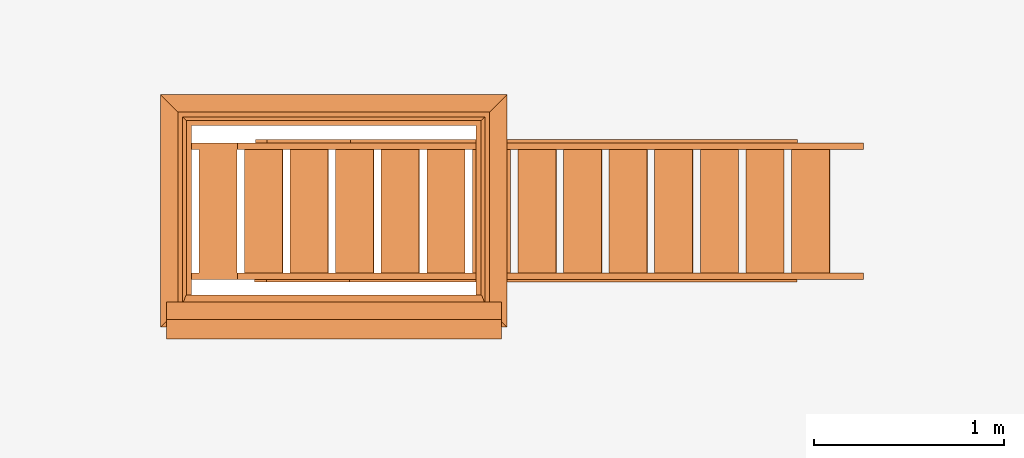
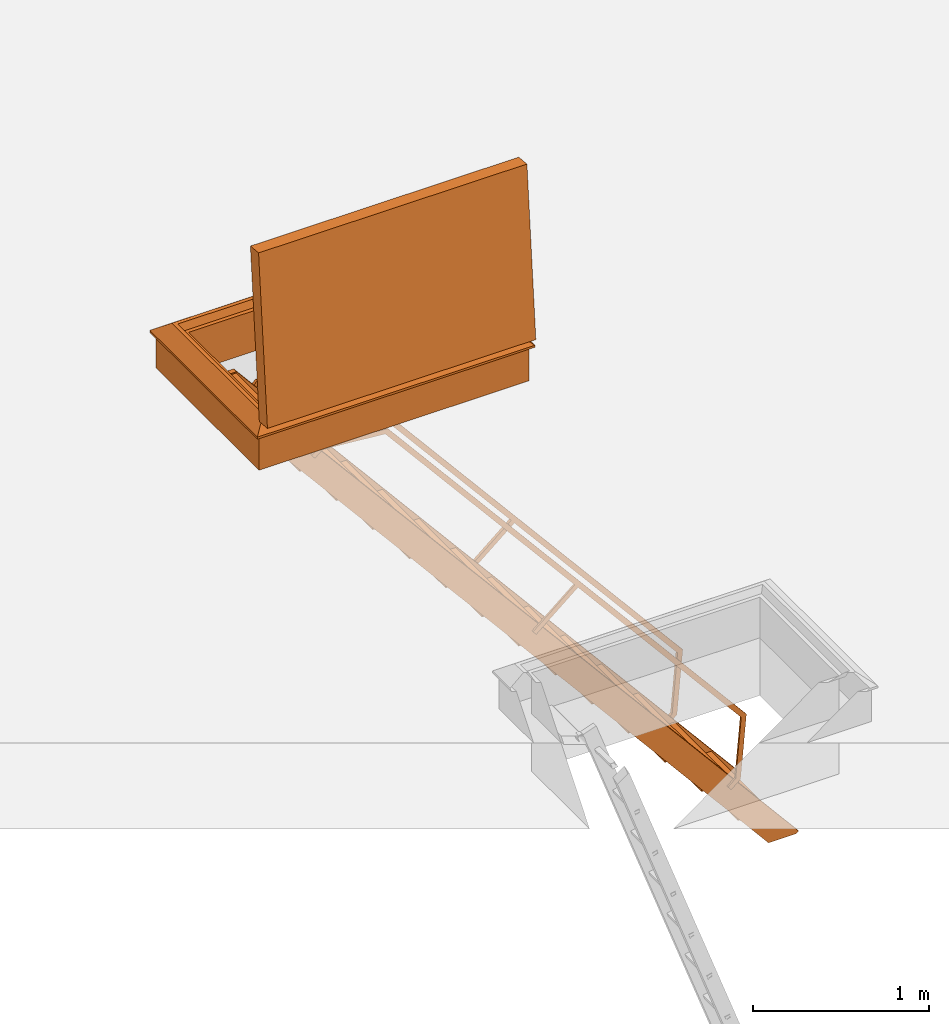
# One storey, part 21 of 28: 1 proxy.
"""IFC2X3 building model written with IfcOpenShell, lengths in millimetres."""

from ifc_helpers import new_model, entity, si_unit, converted_unit, derived_unit, direction, frame, origin, place, context, subcontext, project, spatial, faceted_brep, source, transform, mapped, material, type_object, type_shapes, element, save


model = new_model("IFC2X3")

# Units and contexts
model_context = context("Model", 3, precision=0.01, world=origin(), true_north=direction((6.12303176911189e-17, 1.0)))
body_context = subcontext(model_context, "Body", "Model", "MODEL_VIEW")
ifc_project = project(units=[si_unit("LENGTHUNIT", "METRE", prefix="MILLI"), si_unit("AREAUNIT", "SQUARE_METRE"), si_unit("VOLUMEUNIT", "CUBIC_METRE"), converted_unit("PLANEANGLEUNIT", "DEGREE", entity("IfcRatioMeasure", 0.0174532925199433), si_unit("PLANEANGLEUNIT", "RADIAN"), dimensions=[0, 0, 0, 0, 0, 0, 0]), si_unit("MASSUNIT", "GRAM", prefix="KILO"), derived_unit("MASSDENSITYUNIT", [(si_unit("MASSUNIT", "GRAM", prefix="KILO"), 1), (si_unit("LENGTHUNIT", "METRE"), -3)]), si_unit("TIMEUNIT", "SECOND"), si_unit("FREQUENCYUNIT", "HERTZ"), si_unit("THERMODYNAMICTEMPERATUREUNIT", "DEGREE_CELSIUS"), derived_unit("THERMALTRANSMITTANCEUNIT", [(si_unit("MASSUNIT", "GRAM", prefix="KILO"), 1), (si_unit("THERMODYNAMICTEMPERATUREUNIT", "KELVIN"), -1), (si_unit("TIMEUNIT", "SECOND"), -3)]), derived_unit("VOLUMETRICFLOWRATEUNIT", [(si_unit("LENGTHUNIT", "METRE"), 3), (si_unit("TIMEUNIT", "SECOND"), -1)]), si_unit("ELECTRICCURRENTUNIT", "AMPERE"), si_unit("ELECTRICVOLTAGEUNIT", "VOLT"), si_unit("POWERUNIT", "WATT"), si_unit("FORCEUNIT", "NEWTON", prefix="KILO"), si_unit("ILLUMINANCEUNIT", "LUX"), si_unit("LUMINOUSFLUXUNIT", "LUMEN"), si_unit("LUMINOUSINTENSITYUNIT", "CANDELA"), derived_unit("USERDEFINED", [(si_unit("MASSUNIT", "GRAM", prefix="KILO"), -1), (si_unit("LENGTHUNIT", "METRE"), -2), (si_unit("TIMEUNIT", "SECOND"), 3), (si_unit("LUMINOUSFLUXUNIT", "LUMEN"), 1)]), derived_unit("LINEARVELOCITYUNIT", [(si_unit("LENGTHUNIT", "METRE"), 1), (si_unit("TIMEUNIT", "SECOND"), -1)]), si_unit("PRESSUREUNIT", "PASCAL"), derived_unit("USERDEFINED", [(si_unit("LENGTHUNIT", "METRE"), -2), (si_unit("MASSUNIT", "GRAM", prefix="KILO"), 1), (si_unit("TIMEUNIT", "SECOND"), -2)])], contexts=[model_context])

# Site, building, storey
site_placement = place(None, origin())
site = spatial("IfcSite", under=ifc_project, at=site_placement, Name="Default", CompositionType="ELEMENT")
building_placement = place(site_placement, origin())
building = spatial("IfcBuilding", under=site, at=building_placement, CompositionType="ELEMENT")
storey_placement = place(building_placement, frame((0.0, 0.0, 4000.0)))
storey = spatial("IfcBuildingStorey", under=building, at=storey_placement, Name="Level 2", CompositionType="ELEMENT", Elevation=4000.0)

# Proxy
ifc_material = material(Name="Analytical Floor Surface")
building_element_proxy_type = type_object("IfcBuildingElementProxyType", Name="1500 x 900 Solid Stair", PredefinedType="NOTDEFINED", material=ifc_material)
shared_shape = source(origin(), body_context, "Body", "Brep", [
    faceted_brep([(1728.62735243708, 556.832879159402, -3725.90379726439), (1730.37046729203, 556.832879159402, -3745.82769122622), (1528.62735243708, 556.832879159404, -3745.82769122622), (1528.62735243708, 556.832879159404, -3725.90379726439), (1728.62735243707, -93.1671208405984, -3725.90379726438), (1528.62735243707, -93.1671208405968, -3725.90379726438), (1528.62735243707, -93.1671208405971, -3745.82769122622), (1730.37046729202, -93.1671208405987, -3745.82769122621)], [[[0, 1, 2, 3]], [[4, 5, 6, 7]], [[1, 0, 4, 7]], [[2, 1, 7, 6]], [[3, 2, 6, 5]], [[0, 3, 5, 4]]]),
    faceted_brep([(1488.62735243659, 556.832879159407, -3439.88293504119), (1490.37046729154, 556.832879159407, -3459.80682900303), (1288.62735243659, 556.832879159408, -3459.80682900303), (1288.62735243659, 556.832879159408, -3439.8829350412), (1488.62735243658, -93.1671208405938, -3439.88293504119), (1288.62735243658, -93.1671208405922, -3439.88293504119), (1288.62735243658, -93.1671208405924, -3459.80682900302), (1490.37046729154, -93.167120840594, -3459.80682900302)], [[[0, 1, 2, 3]], [[4, 5, 6, 7]], [[1, 0, 4, 7]], [[2, 1, 7, 6]], [[3, 2, 6, 5]], [[0, 3, 5, 4]]]),
    faceted_brep([(1248.627352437, 556.832879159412, -3153.86207281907), (1250.37046729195, 556.832879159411, -3173.78596678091), (1048.627352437, 556.832879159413, -3173.78596678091), (1048.627352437, 556.832879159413, -3153.86207281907), (1248.62735243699, -93.1671208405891, -3153.86207281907), (1048.62735243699, -93.1671208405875, -3153.86207281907), (1048.62735243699, -93.1671208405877, -3173.7859667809), (1250.37046729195, -93.1671208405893, -3173.7859667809)], [[[0, 1, 2, 3]], [[4, 5, 6, 7]], [[1, 0, 4, 7]], [[2, 1, 7, 6]], [[3, 2, 6, 5]], [[0, 3, 5, 4]]]),
    faceted_brep([(1008.62735243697, 556.832879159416, -2867.84121059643), (1010.37046729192, 556.832879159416, -2887.76510455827), (808.62735243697, 556.832879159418, -2887.76510455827), (808.62735243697, 556.832879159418, -2867.84121059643), (1008.62735243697, -93.1671208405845, -2867.84121059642), (808.627352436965, -93.1671208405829, -2867.84121059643), (808.627352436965, -93.1671208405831, -2887.76510455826), (1010.37046729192, -93.1671208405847, -2887.76510455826)], [[[0, 1, 2, 3]], [[4, 5, 6, 7]], [[1, 0, 4, 7]], [[2, 1, 7, 6]], [[3, 2, 6, 5]], [[0, 3, 5, 4]]]),
    faceted_brep([(768.627352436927, 556.832879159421, -2581.82034837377), (770.37046729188, 556.83287915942, -2601.7442423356), (568.627352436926, 556.832879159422, -2601.7442423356), (568.627352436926, 556.832879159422, -2581.82034837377), (768.627352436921, -93.1671208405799, -2581.82034837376), (568.627352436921, -93.1671208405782, -2581.82034837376), (568.627352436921, -93.1671208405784, -2601.7442423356), (770.370467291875, -93.1671208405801, -2601.7442423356)], [[[0, 1, 2, 3]], [[4, 5, 6, 7]], [[1, 0, 4, 7]], [[2, 1, 7, 6]], [[3, 2, 6, 5]], [[0, 3, 5, 4]]]),
    faceted_brep([(528.627352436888, 556.832879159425, -2295.79948615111), (530.370467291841, 556.832879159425, -2315.72338011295), (328.627352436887, 556.832879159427, -2315.72338011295), (328.627352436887, 556.832879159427, -2295.79948615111), (528.627352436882, -93.1671208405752, -2295.7994861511), (328.627352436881, -93.1671208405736, -2295.79948615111), (328.627352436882, -93.1671208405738, -2315.72338011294), (530.370467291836, -93.1671208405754, -2315.72338011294)], [[[0, 1, 2, 3]], [[4, 5, 6, 7]], [[1, 0, 4, 7]], [[2, 1, 7, 6]], [[3, 2, 6, 5]], [[0, 3, 5, 4]]]),
    faceted_brep([(288.627352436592, 556.83287915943, -2009.77862392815), (290.370467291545, 556.83287915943, -2029.70251788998), (88.6273524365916, 556.832879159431, -2029.70251788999), (88.6273524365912, 556.832879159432, -2009.77862392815), (288.627352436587, -93.1671208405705, -2009.77862392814), (88.6273524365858, -93.1671208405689, -2009.77862392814), (88.6273524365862, -93.1671208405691, -2029.70251788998), (290.37046729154, -93.1671208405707, -2029.70251788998)], [[[0, 1, 2, 3]], [[4, 5, 6, 7]], [[1, 0, 4, 7]], [[2, 1, 7, 6]], [[3, 2, 6, 5]], [[0, 3, 5, 4]]]),
    faceted_brep([(48.6273524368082, 556.832879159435, -1723.7577617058), (50.3704672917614, 556.832879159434, -1743.68165566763), (-151.372647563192, 556.832879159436, -1743.68165566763), (-151.372647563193, 556.832879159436, -1723.7577617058), (48.6273524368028, -93.1671208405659, -1723.75776170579), (-151.372647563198, -93.1671208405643, -1723.75776170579), (-151.372647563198, -93.1671208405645, -1743.68165566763), (50.370467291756, -93.1671208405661, -1743.68165566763)], [[[0, 1, 2, 3]], [[4, 5, 6, 7]], [[1, 0, 4, 7]], [[2, 1, 7, 6]], [[3, 2, 6, 5]], [[0, 3, 5, 4]]]),
    faceted_brep([(-1391.37264756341, 556.832879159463, -7.63258836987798), (-1389.62953270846, 556.832879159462, -27.556482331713), (-1591.37264756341, 556.832879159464, -27.5564823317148), (-1591.37264756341, 556.832879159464, -7.63258836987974), (-1391.37264756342, -93.167120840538, -7.63258836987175), (-1591.37264756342, -93.1671208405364, -7.63258836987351), (-1591.37264756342, -93.1671208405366, -27.5564823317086), (-1389.62953270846, -93.1671208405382, -27.5564823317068)], [[[0, 1, 2, 3]], [[4, 5, 6, 7]], [[1, 0, 4, 7]], [[2, 1, 7, 6]], [[3, 2, 6, 5]], [[0, 3, 5, 4]]]),
    faceted_brep([(-191.372647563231, 556.832879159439, -1437.73689948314), (-189.629532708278, 556.832879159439, -1457.66079344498), (-391.372647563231, 556.832879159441, -1457.66079344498), (-391.372647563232, 556.832879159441, -1437.73689948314), (-191.372647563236, -93.1671208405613, -1437.73689948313), (-391.372647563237, -93.1671208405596, -1437.73689948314), (-391.372647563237, -93.1671208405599, -1457.66079344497), (-189.629532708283, -93.1671208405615, -1457.66079344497)], [[[0, 1, 2, 3]], [[4, 5, 6, 7]], [[1, 0, 4, 7]], [[2, 1, 7, 6]], [[3, 2, 6, 5]], [[0, 3, 5, 4]]]),
    faceted_brep([(-431.37264756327, 556.832879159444, -1151.71603726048), (-429.629532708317, 556.832879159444, -1171.63993122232), (-631.372647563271, 556.832879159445, -1171.63993122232), (-631.372647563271, 556.832879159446, -1151.71603726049), (-431.372647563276, -93.1671208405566, -1151.71603726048), (-631.372647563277, -93.167120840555, -1151.71603726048), (-631.372647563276, -93.1671208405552, -1171.63993122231), (-429.629532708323, -93.1671208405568, -1171.63993122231)], [[[0, 1, 2, 3]], [[4, 5, 6, 7]], [[1, 0, 4, 7]], [[2, 1, 7, 6]], [[3, 2, 6, 5]], [[0, 3, 5, 4]]]),
    faceted_brep([(-671.37264756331, 556.832879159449, -865.695175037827), (-669.629532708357, 556.832879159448, -885.619068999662), (-871.372647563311, 556.83287915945, -885.619068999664), (-871.372647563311, 556.83287915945, -865.695175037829), (-671.372647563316, -93.167120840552, -865.69517503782), (-871.372647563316, -93.1671208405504, -865.695175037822), (-871.372647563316, -93.1671208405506, -885.619068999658), (-669.629532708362, -93.1671208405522, -885.619068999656)], [[[0, 1, 2, 3]], [[4, 5, 6, 7]], [[1, 0, 4, 7]], [[2, 1, 7, 6]], [[3, 2, 6, 5]], [[0, 3, 5, 4]]]),
    faceted_brep([(-911.372647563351, 556.832879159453, -579.674312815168), (-909.629532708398, 556.832879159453, -599.598206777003), (-1111.37264756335, 556.832879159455, -599.598206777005), (-1111.37264756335, 556.832879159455, -579.67431281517), (-911.372647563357, -93.1671208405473, -579.674312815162), (-1111.37264756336, -93.1671208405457, -579.674312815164), (-1111.37264756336, -93.1671208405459, -599.598206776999), (-909.629532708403, -93.1671208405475, -599.598206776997)], [[[0, 1, 2, 3]], [[4, 5, 6, 7]], [[1, 0, 4, 7]], [[2, 1, 7, 6]], [[3, 2, 6, 5]], [[0, 3, 5, 4]]]),
    faceted_brep([(-1151.3726475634, 556.832879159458, -293.653450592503), (-1149.62953270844, 556.832879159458, -313.577344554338), (-1351.3726475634, 556.832879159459, -313.57734455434), (-1351.3726475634, 556.83287915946, -293.653450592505), (-1151.3726475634, -93.1671208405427, -293.653450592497), (-1351.3726475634, -93.167120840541, -293.653450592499), (-1351.3726475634, -93.1671208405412, -313.577344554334), (-1149.62953270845, -93.1671208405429, -313.577344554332)], [[[0, 1, 2, 3]], [[4, 5, 6, 7]], [[1, 0, 4, 7]], [[2, 1, 7, 6]], [[3, 2, 6, 5]], [[0, 3, 5, 4]]]),
    faceted_brep([(-1236.6086774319, -127.167120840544, -141.069289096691), (-798.283010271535, -127.167120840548, -179.417815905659), (513.003713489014, -127.167120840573, -1742.14847986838), (1557.53357922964, -127.167120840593, -2986.97069993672), (1519.18505242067, -127.167120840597, -3425.29636709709), (1457.90149697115, -127.167120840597, -3476.71937587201), (1436.6895058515, -127.167120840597, -3451.43990924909), (1487.50196337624, -127.167120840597, -3408.80319488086), (1523.46781820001, -127.167120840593, -2997.7115931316), (487.724246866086, -127.167120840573, -1763.36047098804), (451.166976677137, -127.167120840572, -1719.79321290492), (176.825790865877, -127.167120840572, -1949.99280073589), (155.613799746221, -127.167120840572, -1924.71333411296), (429.954985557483, -127.167120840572, -1694.51374628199), (-814.776182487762, -127.167120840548, -211.100904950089), (-1225.86778423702, -127.167120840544, -175.135050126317), (-1276.68024176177, -127.167120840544, -217.771764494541), (-1297.89223288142, -127.167120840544, -192.492297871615), (-1236.6086774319, -139.527680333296, -141.069289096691), (-1297.89223288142, -139.527680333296, -192.492297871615), (-1276.68024176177, -139.527680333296, -217.771764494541), (-1225.86778423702, -139.527680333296, -175.135050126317), (-814.776182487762, -139.5276803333, -211.100904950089), (429.954985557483, -139.527680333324, -1694.51374628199), (155.613799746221, -139.527680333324, -1924.71333411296), (176.825790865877, -139.527680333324, -1949.99280073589), (451.166976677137, -139.527680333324, -1719.79321290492), (487.724246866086, -139.527680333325, -1763.36047098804), (1523.46781820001, -139.527680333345, -2997.7115931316), (1487.50196337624, -139.527680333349, -3408.80319488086), (1436.6895058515, -139.527680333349, -3451.43990924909), (1457.90149697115, -139.527680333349, -3476.71937587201), (1519.18505242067, -139.527680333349, -3425.29636709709), (1557.53357922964, -139.527680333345, -2986.97069993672), (513.003713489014, -139.527680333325, -1742.14847986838), (-798.283010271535, -139.5276803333, -179.417815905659)], [[[0, 1, 2, 3, 4, 5, 6, 7, 8, 9, 10, 11, 12, 13, 14, 15, 16, 17]], [[18, 19, 20, 21, 22, 23, 24, 25, 26, 27, 28, 29, 30, 31, 32, 33, 34, 35]], [[1, 0, 18, 35]], [[2, 1, 35, 34]], [[3, 2, 34, 33]], [[4, 3, 33, 32]], [[5, 4, 32, 31]], [[6, 5, 31, 30]], [[7, 6, 30, 29]], [[8, 7, 29, 28]], [[9, 8, 28, 27]], [[14, 13, 23, 22]], [[15, 14, 22, 21]], [[16, 15, 21, 20]], [[17, 16, 20, 19]], [[0, 17, 19, 18]], [[10, 9, 27, 26]], [[11, 10, 26, 25]], [[12, 11, 25, 24]], [[13, 12, 24, 23]]]),
    faceted_brep([(-1232.7784552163, 610.399299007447, -137.855351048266), (-794.452788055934, 610.399299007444, -176.203877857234), (516.833935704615, 610.399299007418, -1738.93454181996), (1561.36380144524, 610.399299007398, -2983.75676188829), (1523.01527463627, 610.399299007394, -3422.08242904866), (1461.73171918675, 610.399299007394, -3473.50543782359), (1440.5197280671, 610.399299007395, -3448.22597120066), (1491.33218559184, 610.399299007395, -3405.58925683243), (1527.29804041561, 610.399299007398, -2994.49765508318), (491.554469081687, 610.399299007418, -1760.14653293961), (454.997198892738, 610.399299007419, -1716.5792748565), (180.656013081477, 610.399299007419, -1946.77886268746), (159.444021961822, 610.399299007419, -1921.49939606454), (433.785207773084, 610.399299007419, -1691.29980823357), (-810.945960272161, 610.399299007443, -207.886966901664), (-1222.03756202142, 610.399299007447, -171.921112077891), (-1272.85001954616, 610.399299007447, -214.557826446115), (-1294.06201066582, 610.399299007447, -189.278359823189), (-1232.7784552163, 590.832879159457, -137.855351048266), (-1294.06201066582, 590.832879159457, -189.278359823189), (-1272.85001954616, 590.832879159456, -214.557826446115), (-1222.03756202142, 590.832879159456, -171.921112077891), (-810.945960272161, 590.832879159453, -207.886966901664), (433.785207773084, 590.832879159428, -1691.29980823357), (159.444021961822, 590.832879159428, -1921.49939606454), (180.656013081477, 590.832879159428, -1946.77886268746), (454.997198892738, 590.832879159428, -1716.5792748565), (491.554469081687, 590.832879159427, -1760.14653293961), (1527.29804041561, 590.832879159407, -2994.49765508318), (1491.33218559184, 590.832879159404, -3405.58925683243), (1440.5197280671, 590.832879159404, -3448.22597120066), (1461.73171918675, 590.832879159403, -3473.50543782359), (1523.01527463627, 590.832879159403, -3422.08242904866), (1561.36380144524, 590.832879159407, -2983.75676188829), (516.833935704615, 590.832879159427, -1738.93454181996), (-794.452788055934, 590.832879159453, -176.203877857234)], [[[0, 1, 2, 3, 4, 5, 6, 7, 8, 9, 10, 11, 12, 13, 14, 15, 16, 17]], [[18, 19, 20, 21, 22, 23, 24, 25, 26, 27, 28, 29, 30, 31, 32, 33, 34, 35]], [[1, 0, 18, 35]], [[2, 1, 35, 34]], [[3, 2, 34, 33]], [[4, 3, 33, 32]], [[5, 4, 32, 31]], [[6, 5, 31, 30]], [[7, 6, 30, 29]], [[8, 7, 29, 28]], [[9, 8, 28, 27]], [[14, 13, 23, 22]], [[15, 14, 22, 21]], [[16, 15, 21, 20]], [[17, 16, 20, 19]], [[0, 17, 19, 18]], [[10, 9, 27, 26]], [[11, 10, 26, 25]], [[12, 11, 25, 24]], [[13, 12, 24, 23]]]),
    faceted_brep([(-1597.76708429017, 590.832879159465, -0.0119954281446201), (-1568.34624050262, 590.832879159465, -35.0743917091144), (-1631.26976233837, 590.832879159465, -35.0518623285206), (-1631.26976233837, 590.832879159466, 0.0), (-1597.76708429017, 556.832879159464, -0.0119954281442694), (-1568.34624050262, 556.832879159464, -35.074391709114), (-1631.26976233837, 556.832879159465, 0.0), (-1631.26976233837, 556.832879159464, -35.0518623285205)], [[[0, 1, 2, 3]], [[1, 0, 4, 5]], [[0, 3, 6, 4]], [[5, 4, 6, 7]], [[2, 1, 5, 7]], [[3, 2, 7, 6]]]),
    faceted_brep([(-1597.76708429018, -127.167120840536, -0.0119954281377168), (-1631.26976233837, -127.167120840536, 0.0), (-1631.26976233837, -127.167120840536, -35.0518623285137), (-1568.34624050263, -127.167120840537, -35.0743917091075), (-1597.76708429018, -93.1671208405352, -0.01199542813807), (-1568.34624050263, -93.1671208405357, -35.0743917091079), (-1631.26976233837, -93.1671208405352, -35.0518623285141), (-1631.26976233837, -93.167120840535, 0.0)], [[[0, 1, 2, 3]], [[4, 5, 6, 7]], [[2, 1, 7, 6]], [[3, 2, 6, 5]], [[1, 0, 4, 7]], [[0, 3, 5, 4]]]),
    faceted_brep([(1907.36795130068, -127.167120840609, -3928.3534543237), (1907.36795130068, -93.1671208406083, -3928.3534543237), (-1388.90191799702, -93.1671208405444, -0.011995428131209), (-1388.90191799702, -127.167120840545, -0.0119954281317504), (1891.29437525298, -93.1671208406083, -3941.84078605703), (1709.82000009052, -93.1671208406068, -3941.84078605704), (-1597.76708429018, -93.1671208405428, -0.0119954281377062), (-1597.80052366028, -127.167120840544, 0.0278560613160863), (1709.82000009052, -127.167120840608, -3941.84078605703), (1891.29437525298, -127.167120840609, -3941.84078605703), (-1597.80052366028, -127.167120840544, -0.0119954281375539), (-1597.76708429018, -127.167120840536, -0.0119954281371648), (-1597.80052366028, -93.1671208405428, 0.0278560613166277)], [[[0, 1, 2, 3]], [[2, 1, 4, 5, 6]], [[0, 3, 7, 8, 9]], [[1, 0, 9, 4]], [[8, 5, 4, 9]], [[3, 2, 6, 10]], [[11, 12, 5, 8]]]),
    faceted_brep([(-1597.76708429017, 556.832879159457, -0.011995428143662), (-1597.80052366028, 590.832879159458, 0.027856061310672), (1709.82000009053, 590.832879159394, -3941.84078605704), (1709.82000009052, 556.832879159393, -3941.84078605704), (-1388.90191799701, 590.832879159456, -0.0119954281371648), (1907.36795130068, 590.832879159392, -3928.35345432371), (1891.29437525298, 590.832879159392, -3941.84078605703), (-1597.80052366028, 590.832879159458, -0.0119954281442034), (1907.36795130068, 556.832879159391, -3928.35345432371), (-1388.90191799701, 556.832879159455, -0.0119954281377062), (-1597.80052366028, 556.832879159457, 0.0278560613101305), (1891.29437525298, 556.832879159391, -3941.84078605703), (-1597.76708429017, 590.832879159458, -0.0119954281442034)], [[[0, 1, 2, 3]], [[4, 5, 6, 2, 7]], [[8, 9, 10, 3, 11]], [[9, 4, 12, 0]], [[3, 2, 6, 11]], [[5, 8, 11, 6]], [[8, 5, 4, 9]]]),
    faceted_brep([(-1631.26976233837, -350.124781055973, 344.195196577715), (-1631.26976233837, -348.800451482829, 344.908169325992), (-1631.26976233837, -347.339899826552, 345.26729022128), (-1631.26976233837, -345.835948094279, 345.249736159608), (-1631.26976233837, -344.384176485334, 344.856622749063), (-1631.26976233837, -343.076849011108, 344.112933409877), (-1631.26976233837, -341.997049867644, 343.065931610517), (-1631.26976233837, -341.213403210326, 341.782157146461), (-1631.26976233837, -340.775711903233, 340.343197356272), (-1631.26976233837, -340.711792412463, 338.840502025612), (-1631.26976233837, -340.696254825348, 336.62771705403), (-1631.26976233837, -340.198130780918, 334.471671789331), (-1631.26976233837, -339.24143902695, 332.476327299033), (-1631.26976233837, -337.872309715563, 330.737895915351), (-1631.26976233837, -336.156760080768, 329.340202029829), (-1631.26976233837, -334.177511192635, 328.350640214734), (-1631.26976233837, -301.289293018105, 316.210889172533), (-1631.26976233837, -348.141421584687, 278.729186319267), (-1631.26976233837, -358.074072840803, 291.145000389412), (-1631.26976233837, -359.148733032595, 293.636450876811), (-1631.26976233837, -359.233835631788, 296.34845707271), (-1631.26976233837, -352.042121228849, 341.908549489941), (-1631.26976233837, -351.228723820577, 343.173683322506), (-1599.74602094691, -334.177511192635, 328.350640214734), (-1599.74602094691, -301.289293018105, 316.210889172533), (-1599.74602094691, -348.141421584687, 278.729186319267), (-1599.74602094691, -358.074072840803, 291.145000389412), (-1599.74602094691, -359.148733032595, 293.636450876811), (-1599.74602094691, -359.23383563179, 296.34845707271), (-1599.74602094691, -352.042121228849, 341.908549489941), (-1599.74602094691, -351.228723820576, 343.173683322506), (-1599.74602094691, -350.124781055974, 344.195196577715), (-1599.74602094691, -348.80045148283, 344.908169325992), (-1599.74602094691, -347.339899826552, 345.26729022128), (-1599.74602094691, -345.835948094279, 345.249736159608), (-1599.74602094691, -344.384176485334, 344.856622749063), (-1599.74602094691, -343.076849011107, 344.112933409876), (-1599.74602094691, -341.997049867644, 343.065931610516), (-1599.74602094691, -341.213403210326, 341.78215714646), (-1599.74602094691, -340.775711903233, 340.343197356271), (-1599.74602094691, -340.711792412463, 338.840502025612), (-1599.74602094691, -340.696254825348, 336.62771705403), (-1599.74602094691, -340.198130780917, 334.471671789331), (-1599.74602094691, -339.24143902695, 332.476327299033), (-1599.74602094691, -336.156760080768, 329.340202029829), (-1599.74602094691, -337.872309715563, 330.737895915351)], [[[0, 1, 2, 3, 4, 5, 6, 7, 8, 9, 10, 11, 12, 13, 14, 15, 16, 17, 18, 19, 20, 21, 22]], [[16, 15, 23, 24]], [[17, 16, 24, 25]], [[18, 17, 25, 26]], [[18, 26, 27, 19]], [[28, 20, 19, 27]], [[21, 20, 28, 29]], [[30, 22, 21, 29]], [[31, 0, 22, 30]], [[2, 1, 32, 33]], [[1, 0, 31, 32]], [[33, 34, 3, 2]], [[34, 35, 4, 3]], [[36, 5, 4, 35]], [[37, 6, 5, 36]], [[38, 39, 8, 7]], [[38, 7, 6, 37]], [[9, 8, 39, 40]], [[41, 42, 11, 10]], [[40, 41, 10, 9]], [[43, 12, 11, 42]], [[44, 23, 15, 14]], [[45, 44, 14, 13]], [[45, 13, 12, 43]], [[25, 24, 23, 44, 45, 43, 42, 41, 40, 39, 38, 37, 36, 35, 34, 33, 32, 31, 30, 29, 28, 27, 26]]]),
    faceted_brep([(-164.993105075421, -301.289293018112, 316.210889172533), (-164.993105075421, -334.177511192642, 328.350640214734), (-131.269762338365, -334.177511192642, 328.350640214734), (-131.269762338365, -301.289293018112, 316.210889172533), (-164.993105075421, -348.141421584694, 278.729186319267), (-131.269762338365, -348.141421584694, 278.729186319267), (-164.993105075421, -358.07407284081, 291.145000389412), (-131.269762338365, -358.07407284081, 291.145000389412), (-164.993105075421, -359.148733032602, 293.636450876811), (-131.269762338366, -359.148733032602, 293.636450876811), (-131.269762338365, -359.233835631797, 296.34845707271), (-164.993105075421, -359.233835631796, 296.34845707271), (-164.993105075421, -352.042121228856, 341.908549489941), (-131.269762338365, -352.042121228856, 341.908549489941), (-131.269762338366, -351.228723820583, 343.173683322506), (-164.993105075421, -351.228723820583, 343.173683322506), (-131.269762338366, -350.12478105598, 344.195196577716), (-164.993105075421, -350.12478105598, 344.195196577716), (-164.993105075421, -347.339899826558, 345.26729022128), (-164.993105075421, -348.800451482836, 344.908169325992), (-131.269762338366, -348.800451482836, 344.908169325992), (-131.269762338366, -347.339899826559, 345.26729022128), (-164.993105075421, -345.835948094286, 345.249736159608), (-131.269762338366, -345.835948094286, 345.249736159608), (-131.269762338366, -344.384176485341, 344.856622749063), (-164.993105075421, -344.384176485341, 344.856622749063), (-131.269762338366, -343.076849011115, 344.112933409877), (-164.993105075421, -343.076849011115, 344.112933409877), (-131.269762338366, -341.997049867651, 343.065931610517), (-164.993105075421, -341.997049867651, 343.065931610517), (-164.993105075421, -340.77571190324, 340.343197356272), (-164.993105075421, -341.213403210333, 341.782157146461), (-131.269762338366, -341.213403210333, 341.782157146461), (-131.269762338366, -340.77571190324, 340.343197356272), (-164.993105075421, -340.71179241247, 338.840502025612), (-131.269762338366, -340.71179241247, 338.840502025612), (-164.993105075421, -340.696254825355, 336.62771705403), (-131.269762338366, -340.696254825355, 336.62771705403), (-164.993105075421, -340.198130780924, 334.471671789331), (-131.269762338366, -340.198130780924, 334.471671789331), (-131.269762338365, -339.241439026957, 332.476327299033), (-164.993105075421, -339.241439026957, 332.476327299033), (-164.993105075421, -336.156760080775, 329.340202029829), (-164.993105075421, -337.87230971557, 330.737895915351), (-131.269762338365, -337.87230971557, 330.737895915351), (-131.269762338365, -336.156760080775, 329.340202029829)], [[[0, 1, 2, 3]], [[4, 0, 3, 5]], [[6, 4, 5, 7]], [[8, 6, 7, 9]], [[8, 9, 10, 11]], [[12, 11, 10, 13]], [[14, 15, 12, 13]], [[16, 17, 15, 14]], [[18, 19, 20, 21]], [[16, 20, 19, 17]], [[22, 18, 21, 23]], [[23, 24, 25, 22]], [[26, 27, 25, 24]], [[28, 29, 27, 26]], [[30, 31, 32, 33]], [[28, 32, 31, 29]], [[34, 30, 33, 35]], [[36, 34, 35, 37]], [[38, 36, 37, 39]], [[40, 41, 38, 39]], [[42, 43, 44, 45]], [[1, 42, 45, 2]], [[44, 43, 41, 40]], [[10, 9, 7, 5, 3, 2, 45, 44, 40, 39, 37, 35, 33, 32, 28, 26, 24, 23, 21, 20, 16, 14, 13]], [[34, 36, 38, 41, 43, 42, 1, 0, 4, 6, 8, 11, 12, 15, 17, 19, 18, 22, 25, 27, 29, 31, 30]]]),
    faceted_brep([(-61.2697623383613, 753.447095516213, 328.0), (30.7302376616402, 845.447095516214, 254.4), (-1793.26976233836, 845.447095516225, 254.4), (-1701.26976233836, 753.447095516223, 328.0), (-105.269762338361, 709.447095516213, 282.0), (-85.7439207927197, 728.972937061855, 328.0), (-1676.795603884, 728.972937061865, 328.0), (-1657.26976233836, 709.447095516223, 282.0), (-131.269762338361, 683.447095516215, 0.0), (-131.269762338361, 683.447095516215, 282.0), (-1631.26976233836, 683.447095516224, 282.0), (-1631.26976233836, 683.447095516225, 0.0), (4.73023766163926, 819.447095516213, 240.0), (4.73023766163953, 819.447095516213, 0.0), (-1767.26976233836, 819.447095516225, 0.0), (-1767.26976233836, 819.447095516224, 240.0), (30.7302376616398, 845.447095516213, 240.0), (-1793.26976233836, 845.447095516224, 240.0), (-1793.26976233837, -378.552904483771, 254.4), (-1701.26976233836, -286.55290448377, 328.0), (-1676.79560388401, -262.078746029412, 328.0), (-1657.26976233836, -242.552904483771, 282.0), (-1631.26976233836, -216.552904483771, 282.0), (-1631.26976233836, -216.552904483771, 0.0), (-1767.26976233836, -352.55290448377, 0.0), (-1767.26976233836, -352.55290448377, 240.0), (-1793.26976233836, -378.55290448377, 240.0), (30.7302376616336, -378.552904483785, 254.399999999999), (-61.2697623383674, -286.552904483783, 328.0), (-85.7439207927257, -262.078746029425, 328.0), (-105.269762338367, -242.552904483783, 282.0), (-131.269762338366, -216.552904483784, 282.0), (-131.269762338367, -216.552904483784, 0.0), (4.73023766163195, -352.552904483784, 0.0), (4.73023766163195, -352.552904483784, 240.0), (30.7302376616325, -378.552904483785, 240.0)], [[[0, 1, 2, 3]], [[4, 5, 6, 7]], [[8, 9, 10, 11]], [[12, 13, 14, 15]], [[1, 16, 17, 2]], [[3, 2, 18, 19]], [[7, 6, 20, 21]], [[11, 10, 22, 23]], [[15, 14, 24, 25]], [[2, 17, 26, 18]], [[19, 18, 27, 28]], [[21, 20, 29, 30]], [[23, 22, 31, 32]], [[25, 24, 33, 34]], [[18, 26, 35, 27]], [[28, 27, 1, 0]], [[3, 19, 28, 0], [5, 29, 20, 6]], [[30, 29, 5, 4]], [[7, 21, 30, 4], [9, 31, 22, 10]], [[32, 31, 9, 8]], [[11, 23, 32, 8], [13, 33, 24, 14]], [[34, 33, 13, 12]], [[15, 25, 34, 12], [16, 35, 26, 17]], [[27, 35, 16, 1]]], outer=[[True], [True], [True], [True], [True], [True], [True], [True], [True], [True], [True], [True], [True], [True], [True], [True], [True, False], [True], [True, False], [True], [False, True], [True], [False, True], [True]]),
    faceted_brep([(-1633.27259076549, -350.029551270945, 1370.57460720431), (-1633.27259076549, -428.818342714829, 470.014600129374), (-128.272590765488, -428.81834271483, 470.014600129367), (-128.272590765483, -350.029551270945, 1370.57460720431), (-1633.27259076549, -211.160010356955, 1358.42509666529), (-128.272590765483, -211.160010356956, 1358.42509666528), (-128.272590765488, -289.94880180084, 457.865089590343), (-1633.27259076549, -289.948801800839, 457.86508959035)], [[[0, 1, 2, 3]], [[4, 5, 6, 7]], [[1, 0, 4, 7]], [[2, 1, 7, 6]], [[3, 2, 6, 5]], [[0, 3, 5, 4]]]),
    faceted_brep([(-128.272590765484, -211.16001035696, 1358.42509666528), (-128.272590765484, -350.02955127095, 1370.57460720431), (-1633.27259076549, -350.029551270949, 1370.57460720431), (-1633.27259076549, -211.16001035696, 1358.42509666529), (-85.2725907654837, -253.635747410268, 1405.30549514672), (-102.872590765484, -208.94625449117, 1383.72844199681), (-1658.67259076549, -208.946254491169, 1383.72844199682), (-1676.27259076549, -253.635747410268, 1405.30549514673), (0.727409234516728, -338.786460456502, 1499.08372325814), (0.727409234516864, -246.14035353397, 1490.97823918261), (-1762.27259076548, -246.140353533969, 1490.97823918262), (-1762.27259076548, -338.786460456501, 1499.08372325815), (-1633.27259076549, -428.818342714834, 470.014600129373), (-1633.27259076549, -289.948801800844, 457.865089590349), (-1658.67259076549, -292.162557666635, 432.561744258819), (-1676.27259076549, -339.919932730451, 419.072744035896), (-1762.27259076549, -347.41532660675, 333.400000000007), (-1762.27259076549, -440.061433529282, 341.505484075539), (-128.27259076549, -428.818342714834, 470.014600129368), (-128.27259076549, -289.948801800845, 457.865089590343), (-102.87259076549, -292.162557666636, 432.561744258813), (-85.2725907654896, -339.919932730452, 419.072744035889), (0.727409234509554, -347.41532660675, 333.399999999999), (0.727409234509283, -440.061433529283, 341.505484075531)], [[[0, 1, 2, 3]], [[4, 5, 6, 7]], [[8, 9, 10, 11]], [[3, 2, 12, 13]], [[7, 6, 14, 15]], [[11, 10, 16, 17]], [[13, 12, 18, 19]], [[15, 14, 20, 21]], [[17, 16, 22, 23]], [[19, 18, 1, 0]], [[3, 13, 19, 0], [5, 20, 14, 6]], [[21, 20, 5, 4]], [[7, 15, 21, 4], [9, 22, 16, 10]], [[23, 22, 9, 8]], [[1, 18, 12, 2], [11, 17, 23, 8]]], outer=[[True], [True], [True], [True], [True], [True], [True], [True], [True], [True], [False, True], [True], [False, True], [True], [False, True]]),
])
type_shapes(building_element_proxy_type, [shared_shape])
proxy_placement = place(storey_placement, frame((-4778.38927370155, 13422.1903412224, 400.0)))
element("IfcBuildingElementProxy", 1, at=proxy_placement, inside=storey, type_object=building_element_proxy_type, material=ifc_material, Name="4_Topaccess_dakluik_1500x900_Staka:1500 x 900 Solid Stair", ObjectType="1500 x 900 Solid Stair", context=body_context, shape_type="MappedRepresentation", body=[
    mapped(shared_shape, transform((0.0, 0.0, 0.0), scale=1.0)),
])

save(model, "model.ifc")
